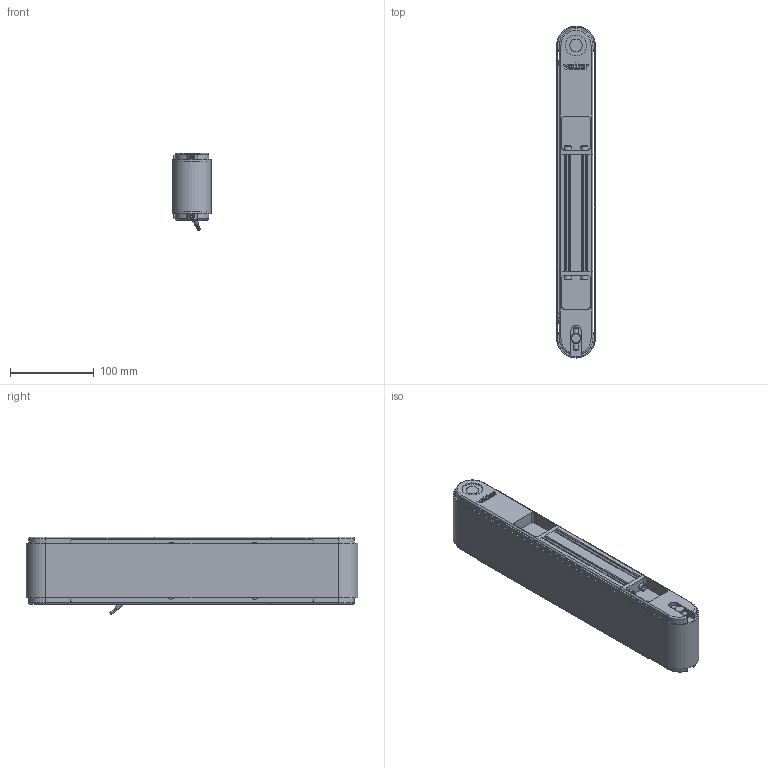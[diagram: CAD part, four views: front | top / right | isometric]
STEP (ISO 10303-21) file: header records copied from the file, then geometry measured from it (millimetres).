
FILE_DESCRIPTION(/* description */ (''),/* implementation_level */ '2;1');
FILE_NAME(/* name */ 'G:\DATEN\CAD\Förderband\Marketing\3D-Modelle (Standard)\FR-40-80\FR-40-80-350-K.stp',/* time_stamp */ '2019-05-08T08:11:59+02:00',/* author */ ('melanie.ochs'),/* organization */ (''),/* preprocessor_version */ 'ST-DEVELOPER v17',/* originating_system */ 'Autodesk Inventor 2019',/* authorisation */ '');
FILE_SCHEMA (('CONFIG_CONTROL_DESIGN'));
Length unit declared in the file: centimetre
Products named in the file (1): FR-40-80-350-K
Bounding box: 46.6 x 396.6 x 92.72 mm (x, y, z)
Volume: 835208.9 mm3; surface area: 267431 mm2
Topology: 1 solids, 25 shells, 1017 faces, 2769 edges, 1848 vertices
Faces by surface type: plane 525, cylinder 279, bspline 122, cone 61, torus 30
Full cylindrical faces by diameter (mm): 1 x6, 4 x6, 4.3 x4, 4.64 x2, 4.917 x1, 5 x11, 5.5 x8, 6 x4, 6.773 x1, 8 x4, 8.3 x4, 8.5 x8, 8.773 x1, 10 x1, 11 x1, 12 x3, 15 x4, 20 x2, 25 x2, 28 x4
Entity records: 34655 total; most frequent: CARTESIAN_POINT 8252, ORIENTED_EDGE 5518, DIRECTION 4984, EDGE_CURVE 2759, VERTEX_POINT 1848, AXIS2_PLACEMENT_3D 1724, LINE 1536, VECTOR 1536
